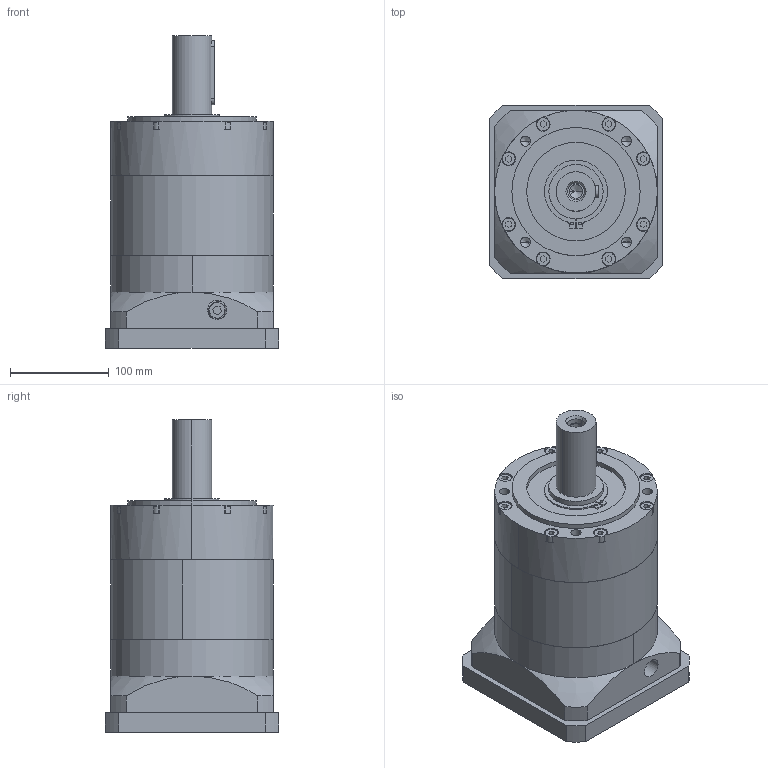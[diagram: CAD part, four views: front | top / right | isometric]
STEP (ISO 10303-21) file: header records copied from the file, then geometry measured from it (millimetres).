
FILE_DESCRIPTION (( 'STEP AP203' ), '1' );
FILE_NAME ('PLE160-L2-35-114.3-200.STEP', '2022-07-04T08:41:24', ( 'Windows User' ), ( 'P R C' ), 'SwSTEP 2.0', 'SolidWorks 2016', '' );
FILE_SCHEMA (( 'CONFIG_CONTROL_DESIGN' ));
Length unit declared in the file: millimetre
Products named in the file (8): PLE160內齿圈_二级内齿圈; PLE160奻屳唳; 邧埴瑩 12x8x65; GB／T276-94深沟球轴承6011-2RZ; PLE160-帣釱; PLE160蟀諉啣_2; PLE160-L2-35-114.3-200; GB／T70．1-2000内六角圆柱头螺钉M10×35
Assembly tree (8 placements, depth 2):
  PLE160-L2-35-114.3-200
    GB／T70．1-2000内六角圆柱头螺钉M10×35  x2
    PLE160內齿圈_二级内齿圈
    PLE160奻屳唳
    邧埴瑩 12x8x65
    GB／T276-94深沟球轴承6011-2RZ
    PLE160-帣釱
    PLE160蟀諉啣_2
Bounding box: 176 x 176 x 317 mm (x, y, z)
Volume: 4761271.8 mm3; surface area: 459281.5 mm2
Topology: 8 solids, 16 shells, 1198 faces, 3233 edges, 2124 vertices
Faces by surface type: plane 634, cylinder 235, bspline 162, sphere 83, torus 56, cone 28
Entity records: 48357 total; most frequent: CARTESIAN_POINT 19166, ORIENTED_EDGE 6232, DIRECTION 5322, EDGE_CURVE 3116, VERTEX_POINT 2062, AXIS2_PLACEMENT_3D 1872, LINE 1578, VECTOR 1578
